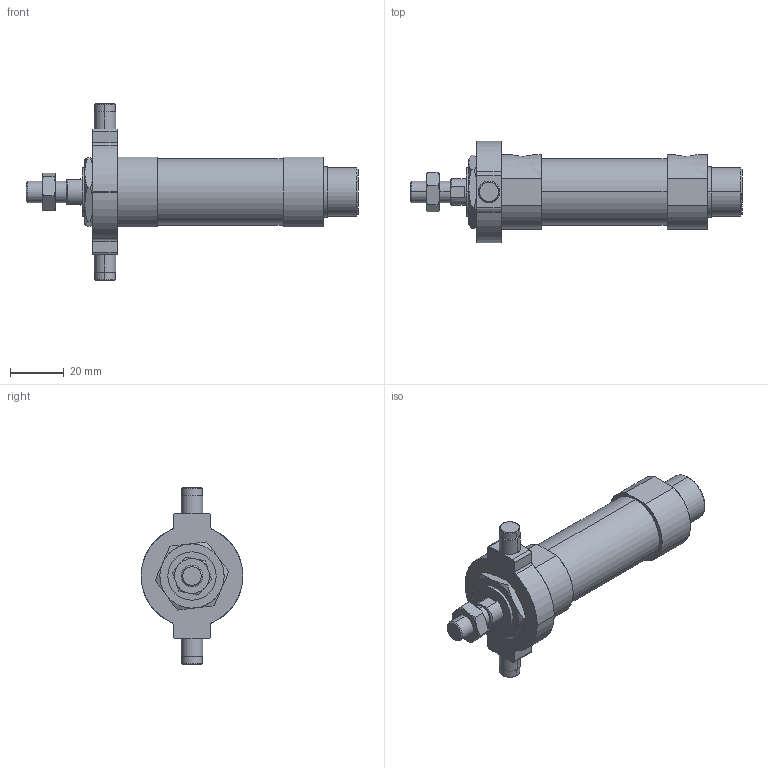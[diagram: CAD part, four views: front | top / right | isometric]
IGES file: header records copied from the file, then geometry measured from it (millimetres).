
Start section: SolidWorks IGES file using analytic representation for surfaces
Global section: file name: C:\Users\Toshiba\Desktop\J#2-20-15-T.IGS; native system: SolidWorks 2014; preprocessor: SolidWorks 2014; author: Toshiba; date: 160308.145318; units: millimetre
Bounding box: 124 x 38 x 66 mm (x, y, z)
Surface area: 16174.8 mm2 (no closed solid volume)
Topology: 0 solids, 0 shells, 131 faces, 2124 edges, 2124 vertices
Faces by surface type: bspline 70, revolution 61
